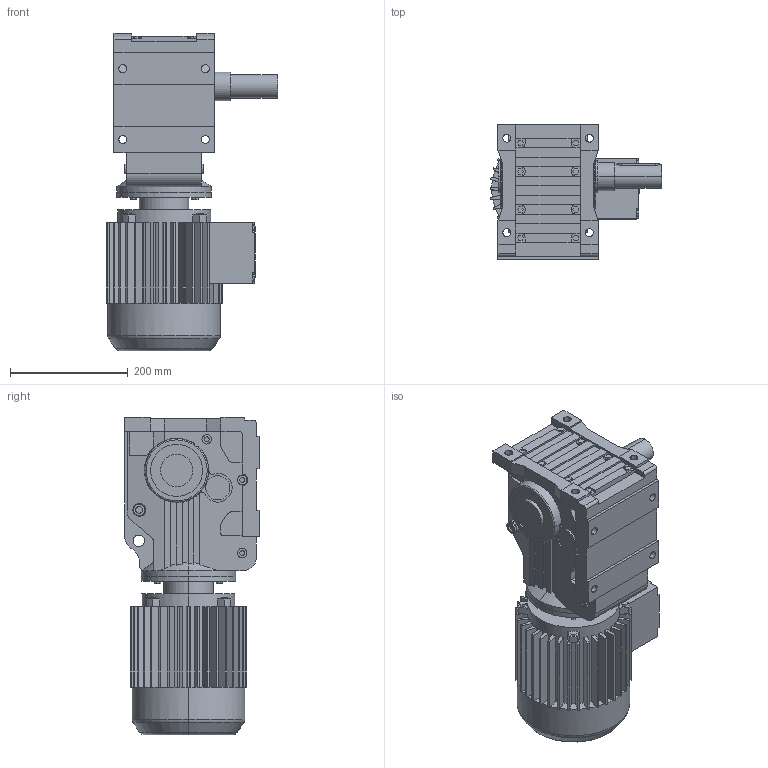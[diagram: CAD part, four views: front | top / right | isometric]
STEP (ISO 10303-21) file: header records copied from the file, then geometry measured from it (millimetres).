
FILE_DESCRIPTION(('Open CASCADE Model'),'2;1');
FILE_NAME('Open CASCADE Shape Model','2021-06-09T17:29:53',('Author'),( 'Open CASCADE'),'Open CASCADE STEP processor 6.3','Open CASCADE 6.3' ,'Unknown');
FILE_SCHEMA(('AUTOMOTIVE_DESIGN_CC2 { 1 2 10303 214 -1 1 5 4 }'));
Length unit declared in the file: millimetre
Products named in the file (4): 1_K67DT90-A; K37‵157_67.step; 萇儂_160-DT90-269-354-197-154.step; す瑩妗陑粣K_67.step
Assembly tree (3 placements, depth 2):
  1_K67DT90-A
    K37‵157_67.step
    萇儂_160-DT90-269-354-197-154.step
    す瑩妗陑粣K_67.step
Bounding box: 291.5 x 228 x 538 mm (x, y, z)
Volume: 14379744 mm3; surface area: 799383.1 mm2
Topology: 3 solids, 3 shells, 839 faces, 2210 edges, 1434 vertices
Faces by surface type: plane 584, cylinder 231, cone 16, torus 8
Entity records: 57784 total; most frequent: CARTESIAN_POINT 15775, DIRECTION 7244, ORIENTED_EDGE 4416, PCURVE 4416, DEFINITIONAL_REPRESENTATION 4416, LINE 3943, VECTOR 3943, EDGE_CURVE 2208
